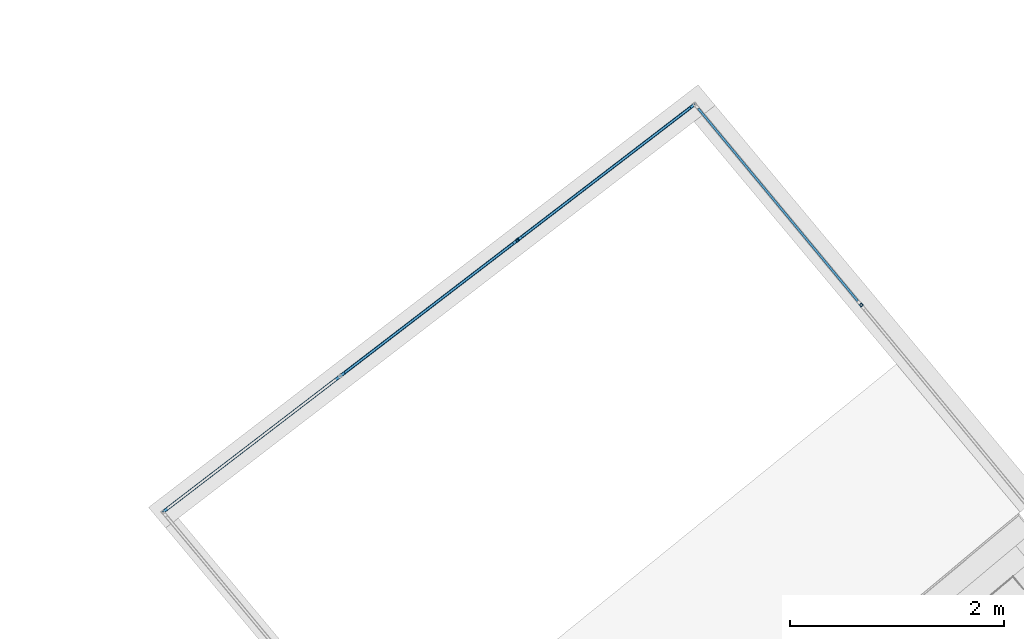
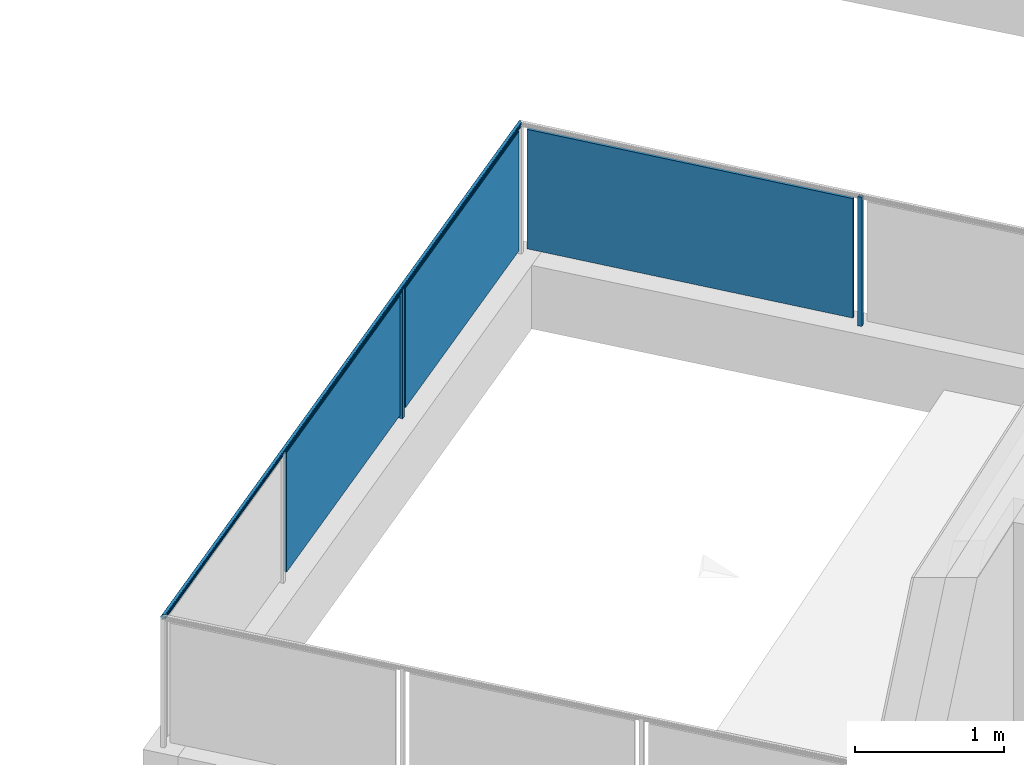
# One storey, part 51 of 67: 6 building element parts, 1 element without a shape of its own.
"""IFC4 building model written with IfcOpenShell, lengths in metres."""

import ifcopenshell
import ifcopenshell.guid

model = None  # the IFC model being written
_history = None  # IfcOwnerHistory: only IFC2X3 demands one
_inside = {}  # id of a spatial element -> (the spatial element, [elements in it])
_under = {}  # id of a project, library or spatial element -> (it, [spatial elements below it])
_declared = {}  # id of a project -> (the project, [libraries it declares])
_typed = {}  # id of a type object -> (the type object, [elements of that type])
_made_of = {}  # id of a material, layer set ... -> (it, [elements and type objects made of it])


def new_model(schema):
    """Start an empty IFC model of exactly this schema.

    Asked for "IFC4X3", IfcOpenShell would pick the latest addendum, in which some entities
    have other attributes; the version numbers below select the first issue.
    IFC2X3 requires an IfcOwnerHistory on every rooted entity: one is made here for all.
    """
    global model, _history
    if schema == "IFC4X3":
        model = ifcopenshell.file(schema_version=(4, 3, 0, 0))
    else:
        model = ifcopenshell.file(schema=schema)
    _inside.clear()
    _under.clear()
    _declared.clear()
    _typed.clear()
    _made_of.clear()
    _history = None
    if model.schema == "IFC2X3":
        org = make("IfcOrganization", Name="unknown")
        user = make(
            "IfcPersonAndOrganization",
            ThePerson=make("IfcPerson", FamilyName="unknown"),
            TheOrganization=org,
        )
        app = make(
            "IfcApplication",
            ApplicationDeveloper=org,
            Version="unknown",
            ApplicationFullName="unknown",
            ApplicationIdentifier="unknown",
        )
        _history = make(
            "IfcOwnerHistory",
            OwningUser=user,
            OwningApplication=app,
            ChangeAction="ADDED",
            CreationDate=0,
        )
    return model


def make(cls, **values):
    """One entity of the class cls with the attributes given. An attribute that is None is left unset."""
    return model.create_entity(
        cls, **{name: value for name, value in values.items() if value is not None}
    )


def entity(cls, *values):
    """Any entity or typed value of the class cls, its attributes in the order of the schema. None: left unset."""
    e = model.create_entity(cls)
    for i, value in enumerate(values):
        if value is not None:
            e[i] = value
    return e


def rooted(cls, **values):
    """An entity with a GlobalId (a new one), such as an element, a storey or a relation."""
    return make(cls, GlobalId=ifcopenshell.guid.new(), OwnerHistory=_history, **values)


def si_unit(unit_type, name, prefix=None):
    """IfcSIUnit, for example si_unit("LENGTHUNIT", "METRE", prefix="MILLI")."""
    return make("IfcSIUnit", UnitType=unit_type, Prefix=prefix, Name=name)


def converted_unit(unit_type, name, factor, base, dimensions=None, offset=None):
    """IfcConversionBasedUnit, such as the inch: factor (a typed value) times the base unit."""
    return make(
        "IfcConversionBasedUnit"
        if offset is None
        else "IfcConversionBasedUnitWithOffset",
        ConversionOffset=offset,
        Dimensions=None
        if dimensions is None
        else entity("IfcDimensionalExponents", *dimensions),
        UnitType=unit_type,
        Name=name,
        ConversionFactor=make(
            "IfcMeasureWithUnit", ValueComponent=factor, UnitComponent=base
        ),
    )


def derived_unit(unit_type, elements):
    """IfcDerivedUnit: a product of units, each with its exponent."""
    return make(
        "IfcDerivedUnit",
        Elements=[
            make("IfcDerivedUnitElement", Unit=unit, Exponent=power)
            for unit, power in elements
        ],
        UnitType=unit_type,
    )


def assignment(units):
    """IfcUnitAssignment: the units of a project."""
    return None if units is None else make("IfcUnitAssignment", Units=units)


def point(xyz):
    """IfcCartesianPoint."""
    return None if xyz is None else make("IfcCartesianPoint", Coordinates=xyz)


def direction(xyz):
    """IfcDirection."""
    return None if xyz is None else make("IfcDirection", DirectionRatios=xyz)


def frame(location, z_axis=None, x_axis=None):
    """IfcAxis2Placement3D, a coordinate frame: its origin and axes. An axis left out is left unset."""
    return make(
        "IfcAxis2Placement3D",
        Location=point(location),
        Axis=direction(z_axis),
        RefDirection=direction(x_axis),
    )


def origin_with_axes():
    """The frame at (0, 0, 0) with the z axis (0, 0, 1) and the x axis (1, 0, 0) written out."""
    return frame((0.0, 0.0, 0.0), z_axis=(0.0, 0.0, 1.0), x_axis=(1.0, 0.0, 0.0))


def place(relative_to, where):
    """IfcLocalPlacement: puts the frame where relative to a parent placement (None: the world)."""
    return make(
        "IfcLocalPlacement", PlacementRelTo=relative_to, RelativePlacement=where
    )


def context(
    kind, dimensions, precision=None, world=None, true_north=None, identifier=None
):
    """IfcGeometricRepresentationContext, for example the 3D "Model" context."""
    return make(
        "IfcGeometricRepresentationContext",
        ContextIdentifier=identifier,
        ContextType=kind,
        CoordinateSpaceDimension=dimensions,
        Precision=precision,
        WorldCoordinateSystem=world,
        TrueNorth=true_north,
    )


def subcontext(parent, identifier, kind, view, scale=None):
    """IfcGeometricRepresentationSubContext, for example "Body" below "Model"."""
    return make(
        "IfcGeometricRepresentationSubContext",
        ContextIdentifier=identifier,
        ContextType=kind,
        ParentContext=parent,
        TargetScale=scale,
        TargetView=view,
    )


def project(units=None, contexts=None):
    """IfcProject with its units and contexts."""
    return rooted(
        "IfcProject",
        Name="project",
        RepresentationContexts=contexts,
        UnitsInContext=assignment(units),
    )


def spatial(cls, under=None, at=None, **own):
    """A site, building, storey or space (cls), placed at a placement, below another one or the project."""
    s = rooted(cls, ObjectPlacement=at, **own)
    if under is not None:
        _under.setdefault(under.id(), (under, []))[1].append(s)
    return s


def point_list(points):
    """IfcCartesianPointList2D or 3D."""
    cls = (
        "IfcCartesianPointList2D" if len(points[0]) == 2 else "IfcCartesianPointList3D"
    )
    return make(cls, CoordList=points)


def polygons(points, faces, closed=None, point_numbers=None):
    """IfcPolygonalFaceSet: a face is its outer loop, then its inner loops; points numbered from 1."""
    made = []
    for loops in faces:
        if len(loops) == 1:
            made.append(make("IfcIndexedPolygonalFace", CoordIndex=loops[0]))
        else:
            made.append(
                make(
                    "IfcIndexedPolygonalFaceWithVoids",
                    CoordIndex=loops[0],
                    InnerCoordIndices=loops[1:],
                )
            )
    return make(
        "IfcPolygonalFaceSet",
        Coordinates=point_list(points),
        Closed=closed,
        Faces=made,
        PnIndex=point_numbers,
    )


def shape(context_of_items, identifier, shape_type, items):
    """IfcShapeRepresentation: the items that make up one representation, for example the "Body"."""
    return make(
        "IfcShapeRepresentation",
        ContextOfItems=context_of_items,
        RepresentationIdentifier=identifier,
        RepresentationType=shape_type,
        Items=items,
    )


def material(Name=None, Category=None):
    """IfcMaterial."""
    return make("IfcMaterial", Name=Name, Category=Category)


def made_of(thing, what):
    """Note that an element or type object is made of a material, layer set ...; save() writes the relation."""
    if what is not None:
        _made_of.setdefault(what.id(), (what, []))[1].append(thing)
    return thing


def type_object(cls, material=None, **own):
    """A type object (cls), such as IfcWallType, which elements share."""
    return made_of(rooted(cls, **own), material)


def element(
    cls,
    number,
    at=None,
    inside=None,
    cuts=None,
    type_object=None,
    material=None,
    context=None,
    identifier="Body",
    shape_type=None,
    held_by="IfcProductDefinitionShape",
    body=None,
    shapes=None,
    **own,
):
    """One element of the class cls, such as IfcWall. Its Tag is "e" and its number.

    at: its placement. inside: the storey or other place that contains it. cuts: it is an
    opening in that element (IfcRelVoidsElement). A single representation is given by context,
    identifier, shape_type and body (its items); several are given by shapes. held_by: the class
    of the entity that holds the representations. save() writes the other relations.
    """
    e = rooted(cls, Tag="e%d" % number, ObjectPlacement=at, **own)
    if body is not None:
        shapes = [shape(context, identifier, shape_type, body)]
    if shapes is not None:
        e.Representation = make(held_by, Representations=shapes)
    if inside is not None:
        _inside.setdefault(inside.id(), (inside, []))[1].append(e)
    if cuts is not None:
        rooted(
            "IfcRelVoidsElement", RelatingBuildingElement=cuts, RelatedOpeningElement=e
        )
    if type_object is not None:
        _typed.setdefault(type_object.id(), (type_object, []))[1].append(e)
    return made_of(e, material)


def aggregate(whole, parts):
    """IfcRelAggregates: a whole, such as a stair, and the parts it consists of."""
    return rooted("IfcRelAggregates", RelatingObject=whole, RelatedObjects=parts)


def save(model, path):
    """Write the relations noted so far, then the file.

    IfcRelAggregates (storeys below a building ...), IfcRelContainedInSpatialStructure (elements
    in a storey), IfcRelDefinesByType, IfcRelAssociatesMaterial and IfcRelDeclares: one each for
    every whole, place, type object, material and project.
    """
    for whole, parts in _under.values():
        aggregate(whole, parts)
    for where, things in _inside.values():
        rooted(
            "IfcRelContainedInSpatialStructure",
            RelatedElements=things,
            RelatingStructure=where,
        )
    for kind, things in _typed.values():
        rooted("IfcRelDefinesByType", RelatedObjects=things, RelatingType=kind)
    for what, things in _made_of.values():
        rooted("IfcRelAssociatesMaterial", RelatedObjects=things, RelatingMaterial=what)
    for by, libraries in _declared.values():
        rooted("IfcRelDeclares", RelatingContext=by, RelatedDefinitions=libraries)
    model.write(path)


model = new_model("IFC4")

# Units and contexts
model_context = context("Model", 3, precision=1e-05, world=origin_with_axes(), true_north=direction((0.0, 1.0)))
body_context = subcontext(model_context, "Body", "Model", "MODEL_VIEW")
ifc_project = project(units=[si_unit("LENGTHUNIT", "METRE"), si_unit("AREAUNIT", "SQUARE_METRE"), si_unit("VOLUMEUNIT", "CUBIC_METRE"), converted_unit("PLANEANGLEUNIT", "DEGREE", entity("IfcPlaneAngleMeasure", 0.0174532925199), si_unit("PLANEANGLEUNIT", "RADIAN"), dimensions=[0, 0, 0, 0, 0, 0, 0]), converted_unit("TIMEUNIT", "Year", entity("IfcTimeMeasure", 31556926.0), si_unit("TIMEUNIT", "SECOND"), dimensions=[0, 0, 1, 0, 0, 0, 0]), si_unit("MASSUNIT", "GRAM", prefix="KILO"), si_unit("THERMODYNAMICTEMPERATUREUNIT", "DEGREE_CELSIUS"), si_unit("LUMINOUSINTENSITYUNIT", "LUMEN"), si_unit("ENERGYUNIT", "JOULE", prefix="MEGA"), derived_unit("THERMALCONDUCTANCEUNIT", [(si_unit("POWERUNIT", "WATT"), 1), (si_unit("LENGTHUNIT", "METRE"), -1), (si_unit("THERMODYNAMICTEMPERATUREUNIT", "KELVIN"), -1)]), derived_unit("SPECIFICHEATCAPACITYUNIT", [(si_unit("ENERGYUNIT", "JOULE"), 1), (si_unit("MASSUNIT", "GRAM", prefix="KILO"), -1), (si_unit("THERMODYNAMICTEMPERATUREUNIT", "KELVIN"), -1)]), derived_unit("MASSDENSITYUNIT", [(si_unit("MASSUNIT", "GRAM", prefix="KILO"), 1), (si_unit("VOLUMEUNIT", "CUBIC_METRE"), -1)])], contexts=[model_context])

# Site, building, storey
site_placement = place(None, frame((-0.00153261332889, -0.00661245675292, 0.0), z_axis=(0.0, 0.0, 1.0), x_axis=(1.0, 0.0, 0.0)))
site = spatial("IfcSite", under=ifc_project, at=site_placement, Name="Site", CompositionType="ELEMENT")
building_placement = place(site_placement, origin_with_axes())
building = spatial("IfcBuilding", under=site, at=building_placement, Name="Building", CompositionType="ELEMENT")
storey_placement = place(building_placement, frame((0.0, 0.0, -0.22), z_axis=(0.0, 0.0, 1.0), x_axis=(1.0, 0.0, 0.0)))
storey = spatial("IfcBuildingStorey", under=building, at=storey_placement, Name="EG", CompositionType="ELEMENT", Elevation=-0.22)

# Railing, building element parts
railing_type = type_object("IfcRailingType", Name="Geländerart", PredefinedType="NOTDEFINED")
railing_placement = place(storey_placement, frame((0.180685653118, 26.4249004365, 0.523948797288), z_axis=(0.0, 0.0, 1.0), x_axis=(1.0, 0.0, 0.0)))
railing = element("IfcRailing", 1, at=railing_placement, inside=storey, type_object=railing_type, Name="Geländer - 001", PredefinedType="NOTDEFINED")
ifc_material_1 = material(Name="Aluminium")
building_element_part_1_placement = place(railing_placement, origin_with_axes())
building_element_part_1 = element("IfcBuildingElementPart", 2, at=building_element_part_1_placement, material=ifc_material_1, Name="Aluminium", PredefinedType="NOTDEFINED", context=body_context, shape_type="Tessellation", body=[
    polygons([(-3.21977118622, 3.98723001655, 1.07636363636), (-3.21943358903, 3.98719260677, 1.07634109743), (1.73126837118, 7.78326252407, 1.07634109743), (1.73130497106, 7.78358685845, 1.07636363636), (-3.21977118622, 3.98723001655, 1.07818181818), (-3.21985991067, 3.98723984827, 1.07820551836), (-3.22459453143, 3.98776450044, 1.0792391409), (-3.22939766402, 3.98829674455, 1.07983921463), (-3.23423275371, 3.98883252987, 1.08000117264), (-3.23432434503, 3.98884267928, 1.08), (-3.23441593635, 3.98885282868, 1.08000117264), (-3.23925102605, 3.98938861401, 1.07983921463), (-3.24405415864, 3.98992085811, 1.0792391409), (-3.24878877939, 3.99044551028, 1.07820551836), (-3.24887750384, 3.99045534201, 1.07818181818), (-3.24887750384, 3.99045534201, 1.07636363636), (-3.24921510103, 3.99049275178, 1.07634109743), (-3.25046526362, 3.99063128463, 1.0761115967), (-3.25165815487, 3.99076347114, 1.07565956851), (-3.2527575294, 3.99088529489, 1.07499874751), (-3.25372998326, 3.99099305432, 1.0741492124), (-3.25454596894, 3.99108347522, 1.07313677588), (-3.25518069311, 3.99115381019, 1.07199220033), (-3.25561487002, 3.99120192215, 1.07075026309), (-3.25583530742, 3.99122634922, 1.06944869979), (-3.25583530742, 3.99122634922, 1.06812705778), (-3.25561487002, 3.99120192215, 1.06682549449), (-3.25518069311, 3.99115381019, 1.06558355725), (-3.25454596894, 3.99108347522, 1.06443898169), (-3.25372998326, 3.99099305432, 1.06342654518), (-3.2527575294, 3.99088529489, 1.06257701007), (-3.25165815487, 3.99076347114, 1.06191618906), (-3.25046526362, 3.99063128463, 1.06146416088), (-3.24921510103, 3.99049275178, 1.06123466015), (-3.24887750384, 3.99045534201, 1.06121212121), (-3.24887750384, 3.99045534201, 1.05818181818), (-3.2486492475, 3.99043004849, 1.05810011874), (-3.247585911, 3.99031221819, 1.05758389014), (-3.24662483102, 3.99020571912, 1.05688326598), (-3.2457952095, 3.99011378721, 1.05601953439), (-3.24512225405, 3.99003921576, 1.05501893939), (-3.2446264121, 3.98998427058, 1.05391188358), (-3.24432274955, 3.98995062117, 1.05273200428), (-3.24422049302, 3.98993928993, 1.05151515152), (-3.24432274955, 3.98995062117, 1.05029829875), (-3.2446264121, 3.98998427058, 1.04911841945), (-3.24512225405, 3.99003921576, 1.04801136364), (-3.2457952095, 3.99011378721, 1.04701076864), (-3.24662483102, 3.99020571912, 1.04614703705), (-3.247585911, 3.99031221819, 1.04544641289), (-3.2486492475, 3.99043004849, 1.04493018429), (-3.24887750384, 3.99045534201, 1.04484848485), (-3.24887750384, 3.99045534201, 1.04), (-3.21977118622, 3.98723001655, 1.04), (-3.21977118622, 3.98723001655, 1.04484848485), (-3.21999944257, 3.98725531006, 1.04493018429), (-3.22106277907, 3.98737314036, 1.04544641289), (-3.22202385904, 3.98747963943, 1.04614703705), (-3.22285348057, 3.98757157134, 1.04701076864), (-3.22352643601, 3.9876461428, 1.04801136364), (-3.22402227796, 3.98770108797, 1.04911841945), (-3.22432594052, 3.98773473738, 1.05029829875), (-3.22442819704, 3.98774606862, 1.05151515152), (-3.22432594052, 3.98773473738, 1.05273200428), (-3.22402227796, 3.98770108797, 1.05391188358), (-3.22352643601, 3.9876461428, 1.05501893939), (-3.22285348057, 3.98757157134, 1.05601953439), (-3.22202385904, 3.98747963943, 1.05688326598), (-3.22106277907, 3.98737314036, 1.05758389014), (-3.21999944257, 3.98725531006, 1.05810011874), (-3.21977118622, 3.98723001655, 1.05818181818), (-3.21977118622, 3.98723001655, 1.06121212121), (-3.21943358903, 3.98719260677, 1.06123466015), (-3.21818342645, 3.98705407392, 1.06146416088), (-3.21699053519, 3.98692188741, 1.06191618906), (-3.21589116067, 3.98680006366, 1.06257701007), (-3.21491870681, 3.98669230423, 1.06342654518), (-3.21410272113, 3.98660188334, 1.06443898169), (-3.21346799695, 3.98653154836, 1.06558355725), (-3.21303382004, 3.98648343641, 1.06682549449), (-3.21281338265, 3.98645900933, 1.06812705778), (-3.21281338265, 3.98645900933, 1.06944869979), (-3.21303382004, 3.98648343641, 1.07075026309), (-3.21346799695, 3.98653154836, 1.07199220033), (-3.21410272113, 3.98660188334, 1.07313677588), (-3.21491870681, 3.98669230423, 1.0741492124), (-3.21589116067, 3.98680006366, 1.07499874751), (-3.21699053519, 3.98692188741, 1.07565956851), (-3.21818342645, 3.98705407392, 1.0761115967), (1.73113283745, 7.7820614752, 1.0761115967), (1.73100351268, 7.78091544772, 1.07565956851), (1.73088432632, 7.77985926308, 1.07499874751), (1.73077889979, 7.77892501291, 1.0741492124), (1.73069043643, 7.77814108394, 1.07313677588), (1.73062162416, 7.77753129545, 1.07199220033), (1.73057455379, 7.77711417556, 1.07075026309), (1.73055065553, 7.77690239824, 1.06944869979), (1.73055065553, 7.77690239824, 1.06812705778), (1.73057455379, 7.77711417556, 1.06682549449), (1.73062162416, 7.77753129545, 1.06558355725), (1.73069043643, 7.77814108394, 1.06443898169), (1.73077889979, 7.77892501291, 1.06342654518), (1.73088432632, 7.77985926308, 1.06257701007), (1.73100351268, 7.78091544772, 1.06191618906), (1.73113283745, 7.7820614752, 1.06146416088), (1.73126837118, 7.78326252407, 1.06123466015), (1.73130497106, 7.78358685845, 1.06121212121), (1.73130497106, 7.78358685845, 1.05818181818), (1.73132971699, 7.78380614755, 1.05810011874), (1.73144499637, 7.78482770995, 1.05758389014), (1.73154918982, 7.78575103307, 1.05688326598), (1.73163913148, 7.78654806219, 1.05601953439), (1.73171208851, 7.78719457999, 1.05501893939), (1.73176584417, 7.78767094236, 1.05391188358), (1.7317987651, 7.78796267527, 1.05273200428), (1.73180985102, 7.78806091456, 1.05151515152), (1.7317987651, 7.78796267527, 1.05029829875), (1.73176584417, 7.78767094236, 1.04911841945), (1.73171208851, 7.78719457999, 1.04801136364), (1.73163913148, 7.78654806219, 1.04701076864), (1.73154918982, 7.78575103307, 1.04614703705), (1.73144499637, 7.78482770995, 1.04544641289), (1.73132971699, 7.78380614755, 1.04493018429), (1.73130497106, 7.78358685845, 1.04484848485), (1.73130497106, 7.78358685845, 1.04), (1.73446047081, 7.81154970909, 1.04), (1.73446047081, 7.81154970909, 1.04484848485), (1.73443572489, 7.81133042, 1.04493018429), (1.73432044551, 7.8103088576, 1.04544641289), (1.73421625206, 7.80938553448, 1.04614703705), (1.7341263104, 7.80858850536, 1.04701076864), (1.73405335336, 7.80794198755, 1.04801136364), (1.73399959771, 7.80746562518, 1.04911841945), (1.73396667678, 7.80717389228, 1.05029829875), (1.73395559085, 7.80707565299, 1.05151515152), (1.73396667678, 7.80717389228, 1.05273200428), (1.73399959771, 7.80746562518, 1.05391188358), (1.73405335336, 7.80794198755, 1.05501893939), (1.7341263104, 7.80858850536, 1.05601953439), (1.73421625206, 7.80938553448, 1.05688326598), (1.73432044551, 7.8103088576, 1.05758389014), (1.73443572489, 7.81133042, 1.05810011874), (1.73446047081, 7.81154970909, 1.05818181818), (1.73446047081, 7.81154970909, 1.06121212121), (1.7344970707, 7.81187404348, 1.06123466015), (1.73463260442, 7.81307509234, 1.06146416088), (1.7347619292, 7.81422111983, 1.06191618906), (1.73488111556, 7.81527730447, 1.06257701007), (1.73498654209, 7.81621155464, 1.06342654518), (1.73507500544, 7.81699548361, 1.06443898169), (1.73514381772, 7.81760527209, 1.06558355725), (1.73519088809, 7.81802239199, 1.06682549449), (1.73521478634, 7.81823416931, 1.06812705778), (1.73521478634, 7.81823416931, 1.06944869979), (1.73519088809, 7.81802239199, 1.07075026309), (1.73514381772, 7.81760527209, 1.07199220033), (1.73507500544, 7.81699548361, 1.07313677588), (1.73498654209, 7.81621155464, 1.0741492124), (1.73488111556, 7.81527730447, 1.07499874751), (1.7347619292, 7.81422111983, 1.07565956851), (1.73463260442, 7.81307509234, 1.0761115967), (1.7344970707, 7.81187404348, 1.07634109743), (1.73446047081, 7.81154970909, 1.07636363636), (1.73446047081, 7.81154970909, 1.07818181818), (1.73445085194, 7.81146447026, 1.07820551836), (1.73393755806, 7.8069158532, 1.0792391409), (1.73341683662, 7.80230141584, 1.07983921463), (1.73289265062, 7.79765627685, 1.08000117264), (1.73288272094, 7.79756828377, 1.08), (1.73287279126, 7.7974802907, 1.08000117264), (1.73234860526, 7.79283515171, 1.07983921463), (1.73182788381, 7.78822071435, 1.0792391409), (1.73131458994, 7.78367209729, 1.07820551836), (1.73130497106, 7.78358685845, 1.07818181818)], [[[1, 2, 3, 4]], [[1, 5, 6, 7, 8, 9, 10, 11, 12, 13, 14, 15, 16, 17, 18, 19, 20, 21, 22, 23, 24, 25, 26, 27, 28, 29, 30, 31, 32, 33, 34, 35, 36, 37, 38, 39, 40, 41, 42, 43, 44, 45, 46, 47, 48, 49, 50, 51, 52, 53, 54, 55, 56, 57, 58, 59, 60, 61, 62, 63, 64, 65, 66, 67, 68, 69, 70, 71, 72, 73, 74, 75, 76, 77, 78, 79, 80, 81, 82, 83, 84, 85, 86, 87, 88, 89, 2]], [[2, 89, 90, 3]], [[4, 3, 90, 91, 92, 93, 94, 95, 96, 97, 98, 99, 100, 101, 102, 103, 104, 105, 106, 107, 108, 109, 110, 111, 112, 113, 114, 115, 116, 117, 118, 119, 120, 121, 122, 123, 124, 125, 126, 127, 128, 129, 130, 131, 132, 133, 134, 135, 136, 137, 138, 139, 140, 141, 142, 143, 144, 145, 146, 147, 148, 149, 150, 151, 152, 153, 154, 155, 156, 157, 158, 159, 160, 161, 162, 163, 164, 165, 166, 167, 168, 169, 170, 171, 172, 173, 174]], [[5, 1, 4, 174]], [[6, 5, 174, 173]], [[7, 6, 173, 172]], [[8, 7, 172, 171]], [[9, 8, 171, 170]], [[10, 9, 170, 169]], [[11, 10, 169, 168]], [[12, 11, 168, 167]], [[13, 12, 167, 166]], [[14, 13, 166, 165]], [[15, 14, 165, 164]], [[16, 15, 164, 163]], [[17, 16, 163, 162]], [[18, 17, 162, 161]], [[19, 18, 161, 160]], [[20, 19, 160, 159]], [[21, 20, 159, 158]], [[22, 21, 158, 157]], [[23, 22, 157, 156]], [[24, 23, 156, 155]], [[25, 24, 155, 154]], [[26, 25, 154, 153]], [[27, 26, 153, 152]], [[28, 27, 152, 151]], [[29, 28, 151, 150]], [[30, 29, 150, 149]], [[31, 30, 149, 148]], [[32, 31, 148, 147]], [[33, 32, 147, 146]], [[34, 33, 146, 145]], [[35, 34, 145, 144]], [[36, 35, 144, 143]], [[37, 36, 143, 142]], [[38, 37, 142, 141]], [[39, 38, 141, 140]], [[40, 39, 140, 139]], [[41, 40, 139, 138]], [[42, 41, 138, 137]], [[43, 42, 137, 136]], [[44, 43, 136, 135]], [[45, 44, 135, 134]], [[46, 45, 134, 133]], [[47, 46, 133, 132]], [[48, 47, 132, 131]], [[49, 48, 131, 130]], [[50, 49, 130, 129]], [[51, 50, 129, 128]], [[52, 51, 128, 127]], [[53, 52, 127, 126]], [[54, 53, 126, 125]], [[55, 54, 125, 124]], [[56, 55, 124, 123]], [[57, 56, 123, 122]], [[58, 57, 122, 121]], [[59, 58, 121, 120]], [[60, 59, 120, 119]], [[61, 60, 119, 118]], [[62, 61, 118, 117]], [[63, 62, 117, 116]], [[64, 63, 116, 115]], [[65, 64, 115, 114]], [[66, 65, 114, 113]], [[67, 66, 113, 112]], [[68, 67, 112, 111]], [[69, 68, 111, 110]], [[70, 69, 110, 109]], [[71, 70, 109, 108]], [[72, 71, 108, 107]], [[73, 72, 107, 106]], [[74, 73, 106, 105]], [[75, 74, 105, 104]], [[76, 75, 104, 103]], [[77, 76, 103, 102]], [[78, 77, 102, 101]], [[79, 78, 101, 100]], [[80, 79, 100, 99]], [[81, 80, 99, 98]], [[82, 81, 98, 97]], [[83, 82, 97, 96]], [[84, 83, 96, 95]], [[85, 84, 95, 94]], [[86, 85, 94, 93]], [[87, 86, 93, 92]], [[88, 87, 92, 91]], [[89, 88, 91, 90]]], closed=True),
])
ifc_material_2 = material(Name="Zaun")
building_element_part_2_placement = place(railing_placement, origin_with_axes())
building_element_part_2 = element("IfcBuildingElementPart", 3, at=building_element_part_2_placement, material=ifc_material_2, Name="Zaun", PredefinedType="NOTDEFINED", context=body_context, shape_type="Tessellation", body=[
    polygons([(0.0313839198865, 6.50550447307, 0.05), (-1.54499524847, 5.29677779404, 0.05), (-1.54499524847, 5.29677779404, 1.03), (0.0313839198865, 6.50550447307, 1.03), (-1.53282554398, 5.28090648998, 0.05), (0.0435536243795, 6.48963316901, 0.05), (-1.53282554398, 5.28090648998, 1.03), (0.0435536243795, 6.48963316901, 1.03)], [[[1, 2, 3, 4]], [[5, 2, 1, 6]], [[7, 3, 2, 5]], [[4, 3, 7, 8]], [[1, 4, 8, 6]], [[7, 5, 6, 8]]], closed=True),
])
building_element_part_3_placement = place(railing_placement, origin_with_axes())
building_element_part_3 = element("IfcBuildingElementPart", 4, at=building_element_part_3_placement, material=ifc_material_1, Name="Aluminium", PredefinedType="NOTDEFINED", context=body_context, shape_type="Tessellation", body=[
    polygons([(0.0981777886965, 6.5252168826, 0.0), (0.0799232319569, 6.54902383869, 0.0), (0.0799232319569, 6.54902383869, 1.06), (0.0981777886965, 6.5252168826, 1.06), (0.0743708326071, 6.50696232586, 0.0), (0.0561162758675, 6.53076928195, 0.0), (0.0911675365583, 6.52614228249, 0.0), (0.0789978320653, 6.54201358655, 0.0), (0.0631265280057, 6.52984388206, 0.0), (0.0752962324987, 6.513972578, 0.0), (0.0561162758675, 6.53076928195, 1.06), (0.0743708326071, 6.50696232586, 1.06), (0.0911675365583, 6.52614228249, 1.06), (0.0752962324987, 6.513972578, 1.06), (0.0631265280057, 6.52984388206, 1.06), (0.0789978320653, 6.54201358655, 1.06)], [[[1, 2, 3, 4]], [[1, 5, 6, 2], [7, 8, 9, 10]], [[2, 6, 11, 3]], [[4, 3, 11, 12], [13, 14, 15, 16]], [[5, 1, 4, 12]], [[6, 5, 12, 11]], [[8, 7, 13, 16]], [[9, 8, 16, 15]], [[10, 9, 15, 14]], [[7, 10, 14, 13]]], closed=True),
])
building_element_part_4_placement = place(railing_placement, origin_with_axes())
building_element_part_4 = element("IfcBuildingElementPart", 5, at=building_element_part_4_placement, material=ifc_material_2, Name="Zaun", PredefinedType="NOTDEFINED", context=body_context, shape_type="Tessellation", body=[
    polygons([(1.68711960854, 7.77507967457, 0.05), (0.110740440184, 6.56635299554, 0.05), (0.110740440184, 6.56635299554, 1.03), (1.68711960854, 7.77507967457, 1.03), (0.122910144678, 6.55048169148, 0.05), (1.69928931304, 7.75920837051, 0.05), (0.122910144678, 6.55048169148, 1.03), (1.69928931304, 7.75920837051, 1.03)], [[[1, 2, 3, 4]], [[5, 2, 1, 6]], [[7, 3, 2, 5]], [[4, 3, 7, 8]], [[1, 4, 8, 6]], [[7, 5, 6, 8]]], closed=True),
])
building_element_part_5_placement = place(railing_placement, origin_with_axes())
building_element_part_5 = element("IfcBuildingElementPart", 6, at=building_element_part_5_placement, material=ifc_material_2, Name="Zaun", PredefinedType="NOTDEFINED", context=body_context, shape_type="Tessellation", body=[
    polygons([(3.26292601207, 5.96657446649, 0.05), (1.77248328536, 7.76544671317, 0.05), (1.77248328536, 7.76544671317, 1.03), (3.26292601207, 5.96657446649, 1.03), (1.75708263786, 7.75268661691, 0.05), (3.24752536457, 5.95381437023, 0.05), (1.75708263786, 7.75268661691, 1.03), (3.24752536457, 5.95381437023, 1.03)], [[[1, 2, 3, 4]], [[5, 2, 1, 6]], [[7, 3, 2, 5]], [[4, 3, 7, 8]], [[1, 4, 8, 6]], [[7, 5, 6, 8]]], closed=True),
])
building_element_part_6_placement = place(railing_placement, origin_with_axes())
building_element_part_6 = element("IfcBuildingElementPart", 7, at=building_element_part_6_placement, material=ifc_material_1, Name="Aluminium", PredefinedType="NOTDEFINED", context=body_context, shape_type="Tessellation", body=[
    polygons([(3.28514551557, 5.9005722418, 0.0), (3.30824648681, 5.91971238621, 0.0), (3.30824648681, 5.91971238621, 1.06), (3.28514551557, 5.9005722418, 1.06), (3.26600537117, 5.92367321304, 0.0), (3.28910634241, 5.94281335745, 0.0), (3.28580565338, 5.90761242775, 0.0), (3.30120630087, 5.92037252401, 0.0), (3.2884462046, 5.93577317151, 0.0), (3.27304555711, 5.92301307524, 0.0), (3.28910634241, 5.94281335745, 1.06), (3.26600537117, 5.92367321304, 1.06), (3.28580565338, 5.90761242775, 1.06), (3.27304555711, 5.92301307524, 1.06), (3.2884462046, 5.93577317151, 1.06), (3.30120630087, 5.92037252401, 1.06)], [[[1, 2, 3, 4]], [[1, 5, 6, 2], [7, 8, 9, 10]], [[2, 6, 11, 3]], [[4, 3, 11, 12], [13, 14, 15, 16]], [[5, 1, 4, 12]], [[6, 5, 12, 11]], [[8, 7, 13, 16]], [[9, 8, 16, 15]], [[10, 9, 15, 14]], [[7, 10, 14, 13]]], closed=True),
])
aggregate(railing, [building_element_part_1, building_element_part_2, building_element_part_3, building_element_part_4, building_element_part_5, building_element_part_6])

save(model, "model.ifc")
